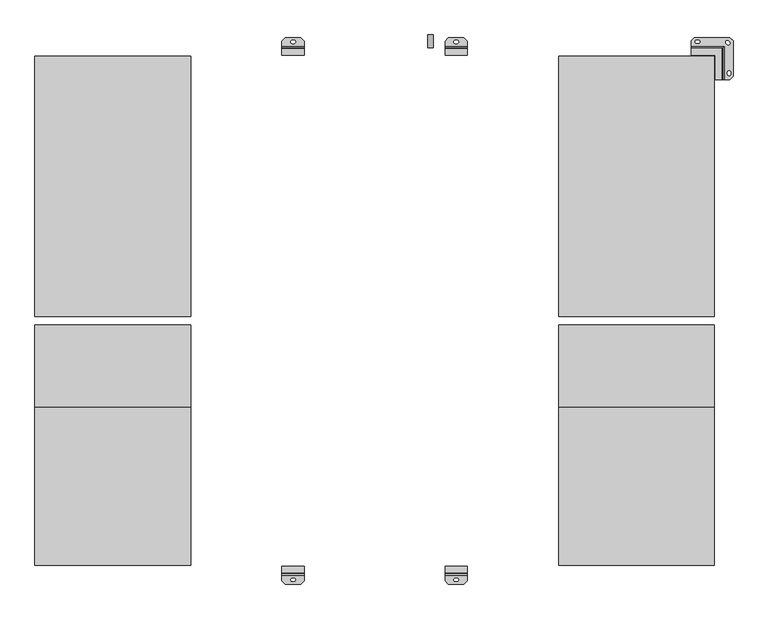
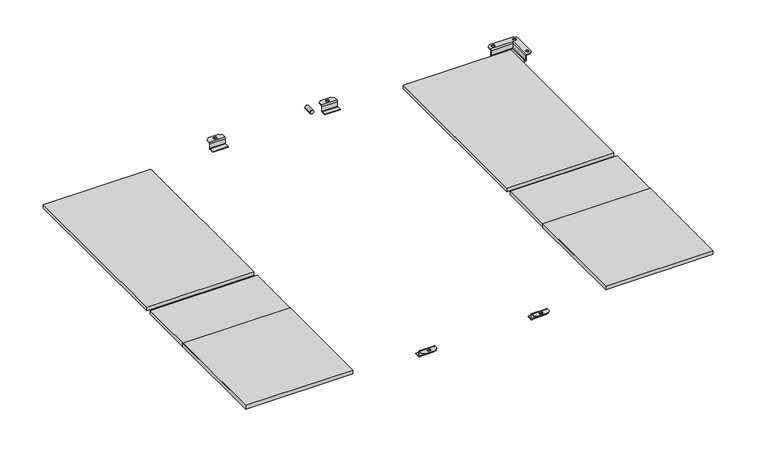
"""IFC4 building model written with IfcOpenShell, lengths in millimetres: proxy geometry, EMC_VEN_CLEVA 2.0_Right_V2 : CLEVA 4000 2.0 Right."""

from ifc_helpers import new_model, si_unit, point, frame, frame_2d, origin, origin_with_axes, place, context, project, spatial, polyline, circle_curve, ellipse_curve, trimmed, segment, composite_curve, outline, extrude, source, transform, mapped, element, save
from ifc_brep_helpers import plane_surface, cylinder_surface, revolved_surface, advanced_brep


def mechanical_equipment_c04ba774(model_context):
    return source(origin(), model_context, "Body", "SolidModel", [
        extrude(outline(polyline([(660.0, -914.0), (660.0, -347.0), (1219.0, -347.0), (1219.0, -914.0), (660.0, -914.0)])), origin_with_axes(), (0.0, 0.0, 1.0), 20.0),
        extrude(outline(polyline([(-660.0, -914.0), (-1219.0, -914.0), (-1219.0, -347.0), (-660.0, -347.0), (-660.0, -914.0)])), origin_with_axes(), (0.0, 0.0, 1.0), 20.0),
        extrude(outline(polyline([(660.0, 914.0), (1219.0, 914.0), (1219.0, -20.0), (660.0, -20.0), (660.0, 914.0)])), origin_with_axes(), (0.0, 0.0, 1.0), 20.0),
        extrude(outline(polyline([(-660.0, 914.0), (-660.0, -20.0), (-1219.0, -20.0), (-1219.0, 914.0), (-660.0, 914.0)])), origin_with_axes(), (0.0, 0.0, 1.0), 20.0),
        extrude(outline(polyline([(660.0, -914.0), (660.0, -50.0), (1219.0, -50.0), (1219.0, -914.0), (660.0, -914.0)])), origin_with_axes(), (0.0, 0.0, 1.0), 20.0),
        extrude(outline(polyline([(-660.0, -914.0), (-1219.0, -914.0), (-1219.0, -50.0), (-660.0, -50.0), (-660.0, -914.0)])), origin_with_axes(), (0.0, 0.0, 1.0), 20.0),
        extrude(outline(composite_curve([segment(trimmed(circle_curve(frame_2d((15.0, 200.0)), 10.0), [point((15.0, 210.0))], [point((15.0, 190.0))], False, "CARTESIAN"), True, "CONTINUOUS"), segment(trimmed(circle_curve(frame_2d((15.0, 200.0)), 10.0), [point((15.0, 190.0))], [point((15.0, 210.0))], False, "CARTESIAN"), True, "CONTINUOUS")], self_intersect=False)), frame((0.0, 945.0, 0.0), z_axis=(0.0, 1.0, 0.0), x_axis=(0.0, 0.0, 1.0)), (0.0, 0.0, 1.0), 46.0),
        advanced_brep(
        [(-332.4199372, 950.9879885, 32.4276212), (-332.4199372, 969.0000028, 32.4276212), (-332.4199372, 969.0000028, 29.4276272), (-332.4199372, 950.9939883, 29.4276272), (-332.4199372, 947.999994, 26.4336329), (-332.4199372, 947.999994, 2.850007), (-332.4199372, 941.9879811, -3.149981), (-332.4199372, 918.0023908, -3.149981), (-332.4199372, 918.0023908, -0.149987), (-332.4199372, 942.9960038, -0.149987), (-332.4199372, 945.0, 1.8540092), (-332.4199372, 945.0, 26.4156337), (-252.4199448, 950.9939883, 29.4276272), (-252.4199448, 969.0000028, 29.4276272), (-252.4199448, 969.0000028, 32.4276212), (-252.4199448, 950.9879885, 32.4276212), (-252.4199448, 945.0, 26.4156337), (-252.4199448, 945.0, 1.8540092), (-252.4199448, 942.9960038, -0.149987), (-252.4199448, 918.0023908, -0.149987), (-252.4199448, 918.0023908, -3.149981), (-252.4199448, 941.9879811, -3.149981), (-252.4199448, 947.9999806, 2.850007), (-252.4199448, 947.999994, 26.4336329), (-320.2699488, 981.1499912, 29.4276272), (-320.2699488, 981.1499912, 32.4276212), (-264.5699332, 981.1499912, 32.4276212), (-264.5699332, 981.1499912, 29.4276272), (-294.919936, 960.0000088, 32.4276212), (-294.9079365, 971.9999968, 32.4276212), (-289.9079465, 971.9999968, 32.4276212), (-289.919946, 960.0000088, 32.4276212), (-289.919946, 960.0000088, 29.4276272), (-289.9079465, 971.9999968, 29.4276272), (-294.9079365, 971.9999968, 29.4276272), (-294.919936, 960.0000088, 29.4276272)],
        [
            (0, 1),
            (1, 2),
            (2, 3),
            (3, 4, circle_curve(frame((-332.4199372, 950.999988, 26.4276332), z_axis=(1.0, 0.0, 0.0), x_axis=(0.0, -1.0, 0.0)), 3.0)),
            (4, 5),
            (5, 6, circle_curve(frame((-332.4199372, 941.9999806, 2.850007), z_axis=(-1.0, 0.0, 0.0), x_axis=(0.0, -1.0, 0.0)), 6.0)),
            (6, 7),
            (7, 8),
            (8, 9),
            (9, 10, circle_curve(frame((-332.4199372, 943.000004, 1.850009), z_axis=(1.0, 0.0, 0.0), x_axis=(0.0, -1.0, 0.0)), 2.0)),
            (10, 11),
            (11, 0, circle_curve(frame((-332.4199372, 950.999988, 26.4276332), z_axis=(-1.0, 0.0, 0.0), x_axis=(0.0, -1.0, 0.0)), 6.0)),
            (12, 13),
            (13, 14),
            (14, 15),
            (15, 16, circle_curve(frame((-252.4199448, 950.999988, 26.4276332), z_axis=(1.0, 0.0, 0.0), x_axis=(0.0, -1.0, 0.0)), 6.0)),
            (16, 17),
            (17, 18, circle_curve(frame((-252.4199448, 943.000004, 1.850009), z_axis=(-1.0, 0.0, 0.0), x_axis=(0.0, -1.0, 0.0)), 2.0)),
            (18, 19),
            (19, 20),
            (20, 21),
            (21, 22, circle_curve(frame((-252.4199448, 941.9999806, 2.850007), z_axis=(1.0, 0.0, 0.0), x_axis=(0.0, -1.0, 0.0)), 6.0)),
            (22, 23),
            (23, 12, circle_curve(frame((-252.4199448, 950.999988, 26.4276332), z_axis=(-1.0, 0.0, 0.0), x_axis=(0.0, -1.0, 0.0)), 3.0)),
            (24, 25),
            (25, 26),
            (26, 27),
            (27, 24),
            (14, 26),
            (25, 1),
            (0, 15),
            (28, 29, circle_curve(frame((-294.919936, 966.0000088, 32.4276212), z_axis=(0.0, 0.0, -1.0), x_axis=(1.0, 0.0, 0.0)), 6.0)),
            (29, 30),
            (30, 31, circle_curve(frame((-289.919946, 966.0000088, 32.4276212), z_axis=(0.0, 0.0, -1.0), x_axis=(1.0, 0.0, 0.0)), 6.0)),
            (31, 28),
            (11, 16),
            (10, 17),
            (9, 18),
            (8, 19),
            (7, 20),
            (6, 21),
            (5, 22),
            (4, 23),
            (3, 12),
            (2, 24),
            (27, 13),
            (32, 33, circle_curve(frame((-289.919946, 966.0000088, 29.4276272), z_axis=(0.0, 0.0, 1.0), x_axis=(1.0, 0.0, 0.0)), 6.0)),
            (33, 34),
            (34, 35, circle_curve(frame((-294.919936, 966.0000088, 29.4276272), z_axis=(0.0, 0.0, 1.0), x_axis=(1.0, 0.0, 0.0)), 6.0)),
            (35, 32),
            (35, 28),
            (31, 32),
            (34, 29),
            (33, 30),
        ],
        [
            plane_surface(frame((-332.4199372, 945.0, 0.0), z_axis=(-1.0, 0.0, 0.0), x_axis=(0.0, 0.0, 1.0))),
            plane_surface(frame((-252.4199448, 945.0, 0.0), z_axis=(1.0, 0.0, 0.0), x_axis=(0.0, 0.0, 1.0))),
            plane_surface(frame((-332.4199372, 981.1499912, 29.4276272), z_axis=(0.0, 1.0, 0.0), x_axis=(1.0, 0.0, 0.0))),
            plane_surface(frame((-332.4199372, 981.1499912, 32.4276212), z_axis=(0.0, 0.0, 1.0), x_axis=(1.0, 0.0, 0.0))),
            cylinder_surface(frame((-332.4199372, 950.999988, 26.4276332), z_axis=(-1.0, 0.0, 0.0), x_axis=(0.0, -1.0, 0.0)), 6.0),
            plane_surface(frame((-332.4199372, 945.0, 26.4156337), z_axis=(0.0, -1.0, 0.0), x_axis=(1.0, 0.0, 0.0))),
            revolved_surface(polyline([(-252.4199448, 941.000004, 1.850009), (-332.4199372, 941.000004, 1.850009)]), (-332.4199372, 943.000004, 1.850009), (1.0, 0.0, 0.0)),
            plane_surface(frame((-332.4199372, 942.9960038, -0.149987), z_axis=(0.0, 0.0, 1.0), x_axis=(1.0, 0.0, 0.0))),
            plane_surface(frame((-332.4199372, 918.0023908, -0.149987), z_axis=(0.0, -1.0, 0.0), x_axis=(1.0, 0.0, 0.0))),
            plane_surface(frame((-332.4199372, 918.0023908, -3.149981), z_axis=(0.0, 0.0, -1.0), x_axis=(1.0, 0.0, 0.0))),
            cylinder_surface(frame((-332.4199372, 941.9999806, 2.850007), z_axis=(-1.0, 0.0, 0.0), x_axis=(0.0, -1.0, 0.0)), 6.0),
            plane_surface(frame((-332.4199372, 947.999994, 2.850007), z_axis=(0.0, 1.0, 0.0), x_axis=(1.0, 0.0, 0.0))),
            revolved_surface(polyline([(-252.4199448, 947.999988, 26.4276332), (-332.4199372, 947.999988, 26.4276332)]), (-332.4199372, 950.999988, 26.4276332), (1.0, 0.0, 0.0)),
            plane_surface(frame((-332.4199372, 950.9939883, 29.4276272), z_axis=(0.0, 0.0, -1.0), x_axis=(1.0, 0.0, 0.0))),
            plane_surface(frame((-289.919946, 959.9999954, 250.0), z_axis=(0.0, 1.0, 0.0), x_axis=(0.0, 0.0, -1.0))),
            revolved_surface(polyline([(-288.919936, 966.0000088, 32.4276212), (-288.919936, 966.0000088, 29.4276272)]), (-294.919936, 966.0000088, 0.0), (0.0, 0.0, 1.0)),
            plane_surface(frame((-294.9079365, 971.9999968, 250.0), z_axis=(0.0, -1.0, 0.0), x_axis=(0.0, 0.0, -1.0))),
            revolved_surface(polyline([(-283.919946, 966.0000088, 32.4276212), (-283.919946, 966.0000088, 29.4276272)]), (-289.919946, 966.0000088, 0.0), (0.0, 0.0, 1.0)),
            plane_surface(frame((-320.2699488, 981.1499912, 250.0), z_axis=(-0.7071067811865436, 0.7071067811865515, 0.0), x_axis=(0.0, 0.0, -1.0))),
            plane_surface(frame((-246.4580002, 963.0380582, 250.0), z_axis=(0.7071067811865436, 0.7071067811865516, 0.0), x_axis=(0.0, 0.0, -1.0))),
        ],
        [
            (0, [[1, 2, 3, 4, 5, 6, 7, 8, 9, 10, 11, 12]]),
            (1, [[13, 14, 15, 16, 17, 18, 19, 20, 21, 22, 23, 24]]),
            (2, [[25, 26, 27, 28]]),
            (3, [[-15, 29, -26, 30, -1, 31], [32, 33, 34, 35]]),
            (4, [[36, -16, -31, -12]]),
            (5, [[37, -17, -36, -11]]),
            (6, [[38, -18, -37, -10]]),
            (7, [[39, -19, -38, -9]]),
            (8, [[40, -20, -39, -8]]),
            (9, [[41, -21, -40, -7]]),
            (10, [[42, -22, -41, -6]]),
            (11, [[43, -23, -42, -5]]),
            (12, [[44, -24, -43, -4]]),
            (13, [[-3, 45, -28, 46, -13, -44], [47, 48, 49, 50]]),
            (14, [[-50, 51, -35, 52]]),
            (15, [[-49, 53, -32, -51]]),
            (16, [[-48, 54, -33, -53]]),
            (17, [[-34, -54, -47, -52]]),
            (18, [[-30, -25, -45, -2]]),
            (19, [[-46, -27, -29, -14]]),
        ],
    ),
        advanced_brep(
        [(252.5800628, 950.9879885, 32.4276212), (252.5800628, 969.0000028, 32.4276212), (252.5800628, 969.0000028, 29.4276272), (252.5800628, 950.9939883, 29.4276272), (252.5800628, 947.999994, 26.4336329), (252.5800628, 947.999994, 2.850007), (252.5800628, 941.9879811, -3.149981), (252.5800628, 918.0023908, -3.149981), (252.5800628, 918.0023908, -0.149987), (252.5800628, 942.9960038, -0.149987), (252.5800628, 945.0, 1.8540092), (252.5800628, 945.0, 26.4156337), (332.5800552, 950.9939883, 29.4276272), (332.5800552, 969.0000028, 29.4276272), (332.5800552, 969.0000028, 32.4276212), (332.5800552, 950.9879885, 32.4276212), (332.5800552, 945.0, 26.4156337), (332.5800552, 945.0, 1.8540092), (332.5800552, 942.9960038, -0.149987), (332.5800552, 918.0023908, -0.149987), (332.5800552, 918.0023908, -3.149981), (332.5800552, 941.9879811, -3.149981), (332.5800552, 947.9999806, 2.850007), (332.5800552, 947.999994, 26.4336329), (264.7300512, 981.1499912, 29.4276272), (264.7300512, 981.1499912, 32.4276212), (320.4300668, 981.1499912, 32.4276212), (320.4300668, 981.1499912, 29.4276272), (290.080064, 960.0000088, 32.4276212), (290.0920635, 971.9999968, 32.4276212), (295.0920535, 971.9999968, 32.4276212), (295.080054, 960.0000088, 32.4276212), (295.080054, 960.0000088, 29.4276272), (295.0920535, 971.9999968, 29.4276272), (290.0920635, 971.9999968, 29.4276272), (290.080064, 960.0000088, 29.4276272)],
        [
            (0, 1),
            (1, 2),
            (2, 3),
            (3, 4, circle_curve(frame((252.5800628, 950.999988, 26.4276332), z_axis=(1.0, 0.0, 0.0), x_axis=(0.0, -1.0, 0.0)), 3.0)),
            (4, 5),
            (5, 6, circle_curve(frame((252.5800628, 941.9999806, 2.850007), z_axis=(-1.0, 0.0, 0.0), x_axis=(0.0, -1.0, 0.0)), 6.0)),
            (6, 7),
            (7, 8),
            (8, 9),
            (9, 10, circle_curve(frame((252.5800628, 943.000004, 1.850009), z_axis=(1.0, 0.0, 0.0), x_axis=(0.0, -1.0, 0.0)), 2.0)),
            (10, 11),
            (11, 0, circle_curve(frame((252.5800628, 950.999988, 26.4276332), z_axis=(-1.0, 0.0, 0.0), x_axis=(0.0, -1.0, 0.0)), 6.0)),
            (12, 13),
            (13, 14),
            (14, 15),
            (15, 16, circle_curve(frame((332.5800552, 950.999988, 26.4276332), z_axis=(1.0, 0.0, 0.0), x_axis=(0.0, -1.0, 0.0)), 6.0)),
            (16, 17),
            (17, 18, circle_curve(frame((332.5800552, 943.000004, 1.850009), z_axis=(-1.0, 0.0, 0.0), x_axis=(0.0, -1.0, 0.0)), 2.0)),
            (18, 19),
            (19, 20),
            (20, 21),
            (21, 22, circle_curve(frame((332.5800552, 941.9999806, 2.850007), z_axis=(1.0, 0.0, 0.0), x_axis=(0.0, -1.0, 0.0)), 6.0)),
            (22, 23),
            (23, 12, circle_curve(frame((332.5800552, 950.999988, 26.4276332), z_axis=(-1.0, 0.0, 0.0), x_axis=(0.0, -1.0, 0.0)), 3.0)),
            (24, 25),
            (25, 26),
            (26, 27),
            (27, 24),
            (14, 26),
            (25, 1),
            (0, 15),
            (28, 29, circle_curve(frame((290.080064, 966.0000088, 32.4276212), z_axis=(0.0, 0.0, -1.0), x_axis=(1.0, 0.0, 0.0)), 6.0)),
            (29, 30),
            (30, 31, circle_curve(frame((295.080054, 966.0000088, 32.4276212), z_axis=(0.0, 0.0, -1.0), x_axis=(1.0, 0.0, 0.0)), 6.0)),
            (31, 28),
            (11, 16),
            (10, 17),
            (9, 18),
            (8, 19),
            (7, 20),
            (6, 21),
            (5, 22),
            (4, 23),
            (3, 12),
            (2, 24),
            (27, 13),
            (32, 33, circle_curve(frame((295.080054, 966.0000088, 29.4276272), z_axis=(0.0, 0.0, 1.0), x_axis=(1.0, 0.0, 0.0)), 6.0)),
            (33, 34),
            (34, 35, circle_curve(frame((290.080064, 966.0000088, 29.4276272), z_axis=(0.0, 0.0, 1.0), x_axis=(1.0, 0.0, 0.0)), 6.0)),
            (35, 32),
            (35, 28),
            (31, 32),
            (34, 29),
            (33, 30),
        ],
        [
            plane_surface(frame((252.5800628, 945.0, 0.0), z_axis=(-1.0, 0.0, 0.0), x_axis=(0.0, 0.0, 1.0))),
            plane_surface(frame((332.5800552, 945.0, 0.0), z_axis=(1.0, 0.0, 0.0), x_axis=(0.0, 0.0, 1.0))),
            plane_surface(frame((252.5800628, 981.1499912, 29.4276272), z_axis=(0.0, 1.0, 0.0), x_axis=(1.0, 0.0, 0.0))),
            plane_surface(frame((252.5800628, 981.1499912, 32.4276212), z_axis=(0.0, 0.0, 1.0), x_axis=(1.0, 0.0, 0.0))),
            cylinder_surface(frame((252.5800628, 950.999988, 26.4276332), z_axis=(-1.0, 0.0, 0.0), x_axis=(0.0, -1.0, 0.0)), 6.0),
            plane_surface(frame((252.5800628, 945.0, 26.4156337), z_axis=(0.0, -1.0, 0.0), x_axis=(1.0, 0.0, 0.0))),
            revolved_surface(polyline([(332.5800552, 941.000004, 1.850009), (252.5800628, 941.000004, 1.850009)]), (252.5800628, 943.000004, 1.850009), (1.0, 0.0, 0.0)),
            plane_surface(frame((252.5800628, 942.9960038, -0.149987), z_axis=(0.0, 0.0, 1.0), x_axis=(1.0, 0.0, 0.0))),
            plane_surface(frame((252.5800628, 918.0023908, -0.149987), z_axis=(0.0, -1.0, 0.0), x_axis=(1.0, 0.0, 0.0))),
            plane_surface(frame((252.5800628, 918.0023908, -3.149981), z_axis=(0.0, 0.0, -1.0), x_axis=(1.0, 0.0, 0.0))),
            cylinder_surface(frame((252.5800628, 941.9999806, 2.850007), z_axis=(-1.0, 0.0, 0.0), x_axis=(0.0, -1.0, 0.0)), 6.0),
            plane_surface(frame((252.5800628, 947.999994, 2.850007), z_axis=(0.0, 1.0, 0.0), x_axis=(1.0, 0.0, 0.0))),
            revolved_surface(polyline([(332.5800552, 947.999988, 26.4276332), (252.5800628, 947.999988, 26.4276332)]), (252.5800628, 950.999988, 26.4276332), (1.0, 0.0, 0.0)),
            plane_surface(frame((252.5800628, 950.9939883, 29.4276272), z_axis=(0.0, 0.0, -1.0), x_axis=(1.0, 0.0, 0.0))),
            plane_surface(frame((295.080054, 959.9999954, 250.0), z_axis=(0.0, 1.0, 0.0), x_axis=(0.0, 0.0, -1.0))),
            revolved_surface(polyline([(296.080064, 966.0000088, 32.4276212), (296.080064, 966.0000088, 29.4276272)]), (290.080064, 966.0000088, 0.0), (0.0, 0.0, 1.0)),
            plane_surface(frame((290.0920635, 971.9999968, 250.0), z_axis=(0.0, -1.0, 0.0), x_axis=(0.0, 0.0, -1.0))),
            revolved_surface(polyline([(301.080054, 966.0000088, 32.4276212), (301.080054, 966.0000088, 29.4276272)]), (295.080054, 966.0000088, 0.0), (0.0, 0.0, 1.0)),
            plane_surface(frame((264.7300512, 981.1499912, 250.0), z_axis=(-0.7071067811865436, 0.7071067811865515, 0.0), x_axis=(0.0, 0.0, -1.0))),
            plane_surface(frame((338.5419998, 963.0380582, 250.0), z_axis=(0.7071067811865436, 0.7071067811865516, 0.0), x_axis=(0.0, 0.0, -1.0))),
        ],
        [
            (0, [[1, 2, 3, 4, 5, 6, 7, 8, 9, 10, 11, 12]]),
            (1, [[13, 14, 15, 16, 17, 18, 19, 20, 21, 22, 23, 24]]),
            (2, [[25, 26, 27, 28]]),
            (3, [[-15, 29, -26, 30, -1, 31], [32, 33, 34, 35]]),
            (4, [[36, -16, -31, -12]]),
            (5, [[37, -17, -36, -11]]),
            (6, [[38, -18, -37, -10]]),
            (7, [[39, -19, -38, -9]]),
            (8, [[40, -20, -39, -8]]),
            (9, [[41, -21, -40, -7]]),
            (10, [[42, -22, -41, -6]]),
            (11, [[43, -23, -42, -5]]),
            (12, [[44, -24, -43, -4]]),
            (13, [[-3, 45, -28, 46, -13, -44], [47, 48, 49, 50]]),
            (14, [[-50, 51, -35, 52]]),
            (15, [[-49, 53, -32, -51]]),
            (16, [[-48, 54, -33, -53]]),
            (17, [[-34, -54, -47, -52]]),
            (18, [[-30, -25, -45, -2]]),
            (19, [[-46, -27, -29, -14]]),
        ],
    ),
        advanced_brep(
        [(-332.4199372, -950.9879885, 32.4276212), (-332.4199372, -945.0, 26.4156337), (-332.4199372, -945.0, 1.8540092), (-332.4199372, -942.9960038, -0.149987), (-332.4199372, -918.0023908, -0.149987), (-332.4199372, -918.0023908, -3.149981), (-332.4199372, -941.9879811, -3.149981), (-332.4199372, -947.9999806, 2.850007), (-332.4199372, -947.999994, 26.4336329), (-332.4199372, -950.9939883, 29.4276272), (-332.4199372, -969.0000028, 29.4276272), (-332.4199372, -969.0000028, 32.4276212), (-252.4199448, -950.9939883, 29.4276272), (-252.4199448, -947.999994, 26.4336329), (-252.4199448, -947.999994, 2.850007), (-252.4199448, -941.9879811, -3.149981), (-252.4199448, -918.0023908, -3.149981), (-252.4199448, -918.0023908, -0.149987), (-252.4199448, -942.9960038, -0.149987), (-252.4199448, -945.0, 1.8540092), (-252.4199448, -945.0, 26.4156337), (-252.4199448, -950.9879885, 32.4276212), (-252.4199448, -969.0000028, 32.4276212), (-252.4199448, -969.0000028, 29.4276272), (-320.2699488, -981.1499912, 29.4276272), (-264.5699332, -981.1499912, 29.4276272), (-264.5699332, -981.1499912, 32.4276212), (-320.2699488, -981.1499912, 32.4276212), (-294.919936, -959.9999954, 32.4276212), (-289.919946, -959.9999954, 32.4276212), (-289.9079465, -971.9999968, 32.4276212), (-294.9079365, -971.9999968, 32.4276212), (-289.919946, -959.9999954, 29.4276272), (-294.919936, -959.9999954, 29.4276272), (-294.9079365, -971.9999968, 29.4276272), (-289.9079465, -971.9999968, 29.4276272)],
        [
            (0, 1, circle_curve(frame((-332.4199372, -950.999988, 26.4276332), z_axis=(-1.0, 0.0, 0.0), x_axis=(0.0, 1.0, 0.0)), 6.0)),
            (1, 2),
            (2, 3, circle_curve(frame((-332.4199372, -943.000004, 1.850009), z_axis=(1.0, 0.0, 0.0), x_axis=(0.0, 1.0, 0.0)), 2.0)),
            (3, 4),
            (4, 5),
            (5, 6),
            (6, 7, circle_curve(frame((-332.4199372, -941.9999806, 2.850007), z_axis=(-1.0, 0.0, 0.0), x_axis=(0.0, 1.0, 0.0)), 6.0)),
            (7, 8),
            (8, 9, circle_curve(frame((-332.4199372, -950.999988, 26.4276332), z_axis=(1.0, 0.0, 0.0), x_axis=(0.0, 1.0, 0.0)), 3.0)),
            (9, 10),
            (10, 11),
            (11, 0),
            (12, 13, circle_curve(frame((-252.4199448, -950.999988, 26.4276332), z_axis=(-1.0, 0.0, 0.0), x_axis=(0.0, 1.0, 0.0)), 3.0)),
            (13, 14),
            (14, 15, circle_curve(frame((-252.4199448, -941.9999806, 2.850007), z_axis=(1.0, 0.0, 0.0), x_axis=(0.0, 1.0, 0.0)), 6.0)),
            (15, 16),
            (16, 17),
            (17, 18),
            (18, 19, circle_curve(frame((-252.4199448, -943.000004, 1.850009), z_axis=(-1.0, 0.0, 0.0), x_axis=(0.0, 1.0, 0.0)), 2.0)),
            (19, 20),
            (20, 21, circle_curve(frame((-252.4199448, -950.999988, 26.4276332), z_axis=(1.0, 0.0, 0.0), x_axis=(0.0, 1.0, 0.0)), 6.0)),
            (21, 22),
            (22, 23),
            (23, 12),
            (24, 25),
            (25, 26),
            (26, 27),
            (27, 24),
            (21, 0),
            (11, 27),
            (26, 22),
            (28, 29),
            (29, 30, circle_curve(frame((-289.919946, -966.0000088, 32.4276212), z_axis=(0.0, 0.0, -1.0), x_axis=(1.0, 0.0, 0.0)), 6.0)),
            (30, 31),
            (31, 28, circle_curve(frame((-294.919936, -966.0000088, 32.4276212), z_axis=(0.0, 0.0, -1.0), x_axis=(1.0, 0.0, 0.0)), 6.0)),
            (20, 1),
            (19, 2),
            (18, 3),
            (17, 4),
            (16, 5),
            (15, 6),
            (14, 7),
            (13, 8),
            (12, 9),
            (23, 25),
            (24, 10),
            (32, 33),
            (33, 34, circle_curve(frame((-294.919936, -966.0000088, 29.4276272), z_axis=(0.0, 0.0, 1.0), x_axis=(1.0, 0.0, 0.0)), 6.0)),
            (34, 35),
            (35, 32, circle_curve(frame((-289.919946, -966.0000088, 29.4276272), z_axis=(0.0, 0.0, 1.0), x_axis=(1.0, 0.0, 0.0)), 6.0)),
            (32, 29),
            (28, 33),
            (31, 34),
            (30, 35),
        ],
        [
            plane_surface(frame((-332.4199372, -945.0, 0.0), z_axis=(-1.0, 0.0, 0.0), x_axis=(0.0, 0.0, 1.0))),
            plane_surface(frame((-252.4199448, -945.0, 0.0), z_axis=(1.0, 0.0, 0.0), x_axis=(0.0, 0.0, 1.0))),
            plane_surface(frame((-332.4199372, -981.1499912, 29.4276272), z_axis=(0.0, -1.0, 0.0), x_axis=(1.0, 0.0, 0.0))),
            plane_surface(frame((-332.4199372, -981.1499912, 32.4276212), z_axis=(0.0, 0.0, 1.0), x_axis=(1.0, 0.0, 0.0))),
            cylinder_surface(frame((-332.4199372, -950.999988, 26.4276332), z_axis=(-1.0, 0.0, 0.0), x_axis=(0.0, 1.0, 0.0)), 6.0),
            plane_surface(frame((-332.4199372, -945.0, 26.4156337), z_axis=(0.0, 1.0, 0.0), x_axis=(1.0, 0.0, 0.0))),
            revolved_surface(polyline([(-252.4199448, -941.000004, 1.850009), (-332.4199372, -941.000004, 1.850009)]), (-332.4199372, -943.000004, 1.850009), (1.0, 0.0, 0.0)),
            plane_surface(frame((-332.4199372, -942.9960038, -0.149987), z_axis=(0.0, 0.0, 1.0), x_axis=(1.0, 0.0, 0.0))),
            plane_surface(frame((-332.4199372, -918.0023908, -0.149987), z_axis=(0.0, 1.0, 0.0), x_axis=(1.0, 0.0, 0.0))),
            plane_surface(frame((-332.4199372, -918.0023908, -3.149981), z_axis=(0.0, 0.0, -1.0), x_axis=(1.0, 0.0, 0.0))),
            cylinder_surface(frame((-332.4199372, -941.9999806, 2.850007), z_axis=(-1.0, 0.0, 0.0), x_axis=(0.0, 1.0, 0.0)), 6.0),
            plane_surface(frame((-332.4199372, -947.999994, 2.850007), z_axis=(0.0, -1.0, 0.0), x_axis=(1.0, 0.0, 0.0))),
            revolved_surface(polyline([(-252.4199448, -947.999988, 26.4276332), (-332.4199372, -947.999988, 26.4276332)]), (-332.4199372, -950.999988, 26.4276332), (1.0, 0.0, 0.0)),
            plane_surface(frame((-332.4199372, -950.9939883, 29.4276272), z_axis=(0.0, 0.0, -1.0), x_axis=(1.0, 0.0, 0.0))),
            plane_surface(frame((-289.919946, -959.9999954, 250.0), z_axis=(0.0, -1.0, 0.0), x_axis=(0.0, 0.0, -1.0))),
            revolved_surface(polyline([(-288.919936, -966.0000088, 32.4276212), (-288.919936, -966.0000088, 29.4276272)]), (-294.919936, -966.0000088, 0.0), (0.0, 0.0, 1.0)),
            plane_surface(frame((-294.9079365, -971.9999968, 250.0), z_axis=(0.0, 1.0, 0.0), x_axis=(0.0, 0.0, -1.0))),
            revolved_surface(polyline([(-283.919946, -966.0000088, 32.4276212), (-283.919946, -966.0000088, 29.4276272)]), (-289.919946, -966.0000088, 0.0), (0.0, 0.0, 1.0)),
            plane_surface(frame((-320.2699488, -981.1499912, 250.0), z_axis=(-0.7071067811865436, -0.7071067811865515, 0.0), x_axis=(0.0, 0.0, -1.0))),
            plane_surface(frame((-246.4580002, -963.0380582, 250.0), z_axis=(0.7071067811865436, -0.7071067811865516, 0.0), x_axis=(0.0, 0.0, -1.0))),
        ],
        [
            (0, [[1, 2, 3, 4, 5, 6, 7, 8, 9, 10, 11, 12]]),
            (1, [[13, 14, 15, 16, 17, 18, 19, 20, 21, 22, 23, 24]]),
            (2, [[25, 26, 27, 28]]),
            (3, [[29, -12, 30, -27, 31, -22], [32, 33, 34, 35]]),
            (4, [[-1, -29, -21, 36]]),
            (5, [[-2, -36, -20, 37]]),
            (6, [[-3, -37, -19, 38]]),
            (7, [[-4, -38, -18, 39]]),
            (8, [[-5, -39, -17, 40]]),
            (9, [[-6, -40, -16, 41]]),
            (10, [[-7, -41, -15, 42]]),
            (11, [[-8, -42, -14, 43]]),
            (12, [[-9, -43, -13, 44]]),
            (13, [[-44, -24, 45, -25, 46, -10], [47, 48, 49, 50]]),
            (14, [[51, -32, 52, -47]]),
            (15, [[-52, -35, 53, -48]]),
            (16, [[-53, -34, 54, -49]]),
            (17, [[-51, -50, -54, -33]]),
            (18, [[-11, -46, -28, -30]]),
            (19, [[-23, -31, -26, -45]]),
        ],
    ),
        advanced_brep(
        [(252.5800628, -950.9879885, 32.4276212), (252.5800628, -945.0, 26.4156337), (252.5800628, -945.0, 1.8540092), (252.5800628, -942.9960038, -0.149987), (252.5800628, -918.0023908, -0.149987), (252.5800628, -918.0023908, -3.149981), (252.5800628, -941.9879811, -3.149981), (252.5800628, -947.9999806, 2.850007), (252.5800628, -947.999994, 26.4336329), (252.5800628, -950.9939883, 29.4276272), (252.5800628, -969.0000028, 29.4276272), (252.5800628, -969.0000028, 32.4276212), (332.5800552, -950.9939883, 29.4276272), (332.5800552, -947.999994, 26.4336329), (332.5800552, -947.999994, 2.850007), (332.5800552, -941.9879811, -3.149981), (332.5800552, -918.0023908, -3.149981), (332.5800552, -918.0023908, -0.149987), (332.5800552, -942.9960038, -0.149987), (332.5800552, -945.0, 1.8540092), (332.5800552, -945.0, 26.4156337), (332.5800552, -950.9879885, 32.4276212), (332.5800552, -969.0000028, 32.4276212), (332.5800552, -969.0000028, 29.4276272), (264.7300512, -981.1499912, 29.4276272), (320.4300668, -981.1499912, 29.4276272), (320.4300668, -981.1499912, 32.4276212), (264.7300512, -981.1499912, 32.4276212), (290.080064, -959.9999954, 32.4276212), (295.080054, -959.9999954, 32.4276212), (295.0920535, -971.9999968, 32.4276212), (290.0920635, -971.9999968, 32.4276212), (295.080054, -959.9999954, 29.4276272), (290.080064, -959.9999954, 29.4276272), (290.0920635, -971.9999968, 29.4276272), (295.0920535, -971.9999968, 29.4276272)],
        [
            (0, 1, circle_curve(frame((252.5800628, -950.999988, 26.4276332), z_axis=(-1.0, 0.0, 0.0), x_axis=(0.0, 1.0, 0.0)), 6.0)),
            (1, 2),
            (2, 3, circle_curve(frame((252.5800628, -943.000004, 1.850009), z_axis=(1.0, 0.0, 0.0), x_axis=(0.0, 1.0, 0.0)), 2.0)),
            (3, 4),
            (4, 5),
            (5, 6),
            (6, 7, circle_curve(frame((252.5800628, -941.9999806, 2.850007), z_axis=(-1.0, 0.0, 0.0), x_axis=(0.0, 1.0, 0.0)), 6.0)),
            (7, 8),
            (8, 9, circle_curve(frame((252.5800628, -950.999988, 26.4276332), z_axis=(1.0, 0.0, 0.0), x_axis=(0.0, 1.0, 0.0)), 3.0)),
            (9, 10),
            (10, 11),
            (11, 0),
            (12, 13, circle_curve(frame((332.5800552, -950.999988, 26.4276332), z_axis=(-1.0, 0.0, 0.0), x_axis=(0.0, 1.0, 0.0)), 3.0)),
            (13, 14),
            (14, 15, circle_curve(frame((332.5800552, -941.9999806, 2.850007), z_axis=(1.0, 0.0, 0.0), x_axis=(0.0, 1.0, 0.0)), 6.0)),
            (15, 16),
            (16, 17),
            (17, 18),
            (18, 19, circle_curve(frame((332.5800552, -943.000004, 1.850009), z_axis=(-1.0, 0.0, 0.0), x_axis=(0.0, 1.0, 0.0)), 2.0)),
            (19, 20),
            (20, 21, circle_curve(frame((332.5800552, -950.999988, 26.4276332), z_axis=(1.0, 0.0, 0.0), x_axis=(0.0, 1.0, 0.0)), 6.0)),
            (21, 22),
            (22, 23),
            (23, 12),
            (24, 25),
            (25, 26),
            (26, 27),
            (27, 24),
            (21, 0),
            (11, 27),
            (26, 22),
            (28, 29),
            (29, 30, circle_curve(frame((295.080054, -966.0000088, 32.4276212), z_axis=(0.0, 0.0, -1.0), x_axis=(1.0, 0.0, 0.0)), 6.0)),
            (30, 31),
            (31, 28, circle_curve(frame((290.080064, -966.0000088, 32.4276212), z_axis=(0.0, 0.0, -1.0), x_axis=(1.0, 0.0, 0.0)), 6.0)),
            (20, 1),
            (19, 2),
            (18, 3),
            (17, 4),
            (16, 5),
            (15, 6),
            (14, 7),
            (13, 8),
            (12, 9),
            (23, 25),
            (24, 10),
            (32, 33),
            (33, 34, circle_curve(frame((290.080064, -966.0000088, 29.4276272), z_axis=(0.0, 0.0, 1.0), x_axis=(1.0, 0.0, 0.0)), 6.0)),
            (34, 35),
            (35, 32, circle_curve(frame((295.080054, -966.0000088, 29.4276272), z_axis=(0.0, 0.0, 1.0), x_axis=(1.0, 0.0, 0.0)), 6.0)),
            (32, 29),
            (28, 33),
            (31, 34),
            (30, 35),
        ],
        [
            plane_surface(frame((252.5800628, -945.0, 0.0), z_axis=(-1.0, 0.0, 0.0), x_axis=(0.0, 0.0, 1.0))),
            plane_surface(frame((332.5800552, -945.0, 0.0), z_axis=(1.0, 0.0, 0.0), x_axis=(0.0, 0.0, 1.0))),
            plane_surface(frame((252.5800628, -981.1499912, 29.4276272), z_axis=(0.0, -1.0, 0.0), x_axis=(1.0, 0.0, 0.0))),
            plane_surface(frame((252.5800628, -981.1499912, 32.4276212), z_axis=(0.0, 0.0, 1.0), x_axis=(1.0, 0.0, 0.0))),
            cylinder_surface(frame((252.5800628, -950.999988, 26.4276332), z_axis=(-1.0, 0.0, 0.0), x_axis=(0.0, 1.0, 0.0)), 6.0),
            plane_surface(frame((252.5800628, -945.0, 26.4156337), z_axis=(0.0, 1.0, 0.0), x_axis=(1.0, 0.0, 0.0))),
            revolved_surface(polyline([(332.5800552, -941.000004, 1.850009), (252.5800628, -941.000004, 1.850009)]), (252.5800628, -943.000004, 1.850009), (1.0, 0.0, 0.0)),
            plane_surface(frame((252.5800628, -942.9960038, -0.149987), z_axis=(0.0, 0.0, 1.0), x_axis=(1.0, 0.0, 0.0))),
            plane_surface(frame((252.5800628, -918.0023908, -0.149987), z_axis=(0.0, 1.0, 0.0), x_axis=(1.0, 0.0, 0.0))),
            plane_surface(frame((252.5800628, -918.0023908, -3.149981), z_axis=(0.0, 0.0, -1.0), x_axis=(1.0, 0.0, 0.0))),
            cylinder_surface(frame((252.5800628, -941.9999806, 2.850007), z_axis=(-1.0, 0.0, 0.0), x_axis=(0.0, 1.0, 0.0)), 6.0),
            plane_surface(frame((252.5800628, -947.999994, 2.850007), z_axis=(0.0, -1.0, 0.0), x_axis=(1.0, 0.0, 0.0))),
            revolved_surface(polyline([(332.5800552, -947.999988, 26.4276332), (252.5800628, -947.999988, 26.4276332)]), (252.5800628, -950.999988, 26.4276332), (1.0, 0.0, 0.0)),
            plane_surface(frame((252.5800628, -950.9939883, 29.4276272), z_axis=(0.0, 0.0, -1.0), x_axis=(1.0, 0.0, 0.0))),
            plane_surface(frame((295.080054, -959.9999954, 250.0), z_axis=(0.0, -1.0, 0.0), x_axis=(0.0, 0.0, -1.0))),
            revolved_surface(polyline([(296.080064, -966.0000088, 32.4276212), (296.080064, -966.0000088, 29.4276272)]), (290.080064, -966.0000088, 0.0), (0.0, 0.0, 1.0)),
            plane_surface(frame((290.0920635, -971.9999968, 250.0), z_axis=(0.0, 1.0, 0.0), x_axis=(0.0, 0.0, -1.0))),
            revolved_surface(polyline([(301.080054, -966.0000088, 32.4276212), (301.080054, -966.0000088, 29.4276272)]), (295.080054, -966.0000088, 0.0), (0.0, 0.0, 1.0)),
            plane_surface(frame((264.7300512, -981.1499912, 250.0), z_axis=(-0.7071067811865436, -0.7071067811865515, 0.0), x_axis=(0.0, 0.0, -1.0))),
            plane_surface(frame((338.5419998, -963.0380582, 250.0), z_axis=(0.7071067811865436, -0.7071067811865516, 0.0), x_axis=(0.0, 0.0, -1.0))),
        ],
        [
            (0, [[1, 2, 3, 4, 5, 6, 7, 8, 9, 10, 11, 12]]),
            (1, [[13, 14, 15, 16, 17, 18, 19, 20, 21, 22, 23, 24]]),
            (2, [[25, 26, 27, 28]]),
            (3, [[29, -12, 30, -27, 31, -22], [32, 33, 34, 35]]),
            (4, [[-1, -29, -21, 36]]),
            (5, [[-2, -36, -20, 37]]),
            (6, [[-3, -37, -19, 38]]),
            (7, [[-4, -38, -18, 39]]),
            (8, [[-5, -39, -17, 40]]),
            (9, [[-6, -40, -16, 41]]),
            (10, [[-7, -41, -15, 42]]),
            (11, [[-8, -42, -14, 43]]),
            (12, [[-9, -43, -13, 44]]),
            (13, [[-44, -24, 45, -25, 46, -10], [47, 48, 49, 50]]),
            (14, [[51, -32, 52, -47]]),
            (15, [[-52, -35, 53, -48]]),
            (16, [[-53, -34, 54, -49]]),
            (17, [[-51, -50, -54, -33]]),
            (18, [[-11, -46, -28, -30]]),
            (19, [[-23, -31, -26, -45]]),
        ],
    ),
        advanced_brep(
        [(1255.9879885, 830.1499884, 32.4276212), (1250.0, 830.1499884, 26.4156337), (1250.0, 830.1499884, 1.8540092), (1247.9960038, 830.1499884, -0.149987), (1223.0023908, 830.1499884, -0.149987), (1223.0023908, 830.1499884, -3.149981), (1246.9879811, 830.1499884, -3.149981), (1252.9999806, 830.1499884, 2.850007), (1252.999994, 830.1499884, 26.4336329), (1255.9939883, 830.1499884, 29.4276272), (1274.1500152, 830.1499884, 29.4276272), (1274.1500152, 830.1499884, 32.4276212), (1286.1499912, 842.1499898, 29.4276272), (1286.1499912, 969.1499898, 29.4276272), (1286.1499912, 969.1499898, 32.4276212), (1286.1499912, 842.1499898, 32.4276212), (1135.1500138, 950.9879885, 32.4276212), (1255.9879885, 950.9879885, 32.4276212), (1274.1500152, 981.1499912, 32.4276212), (1147.1500152, 981.1499912, 32.4276212), (1135.1500138, 969.1499898, 32.4276212), (1160.6500136, 972.6499948, 32.4276212), (1160.6380141, 960.6500068, 32.4276212), (1155.6619977, 960.6500068, 32.4276212), (1155.6499982, 972.6499948, 32.4276212), (1269.8972231, 968.4322052, 32.4276212), (1273.4413867, 964.888067, 32.4276212), (1264.9515297, 956.4073661, 32.4276212), (1261.4119618, 959.9469136, 32.4276212), (1265.6500068, 855.6379887, 32.4276212), (1277.6499948, 855.6499882, 32.4276212), (1277.6500082, 850.6499982, 32.4276212), (1265.6500068, 850.6379987, 32.4276212), (1250.0, 945.0, 26.4156337), (1250.0, 945.0, 1.8540092), (1247.9960038, 942.9960038, -0.149987), (1135.1500138, 942.9960038, -0.149987), (1135.1500138, 918.0023908, -0.149987), (1223.0023908, 918.0023908, -0.149987), (1223.0023908, 918.0023908, -3.149981), (1135.1500138, 918.0023908, -3.149981), (1135.1500138, 941.9879811, -3.149981), (1246.9879811, 941.9879811, -3.149981), (1252.9999806, 947.9999806, 2.850007), (1252.999994, 947.999994, 26.4336329), (1255.9939883, 950.9939883, 29.4276272), (1135.1500138, 950.9939883, 29.4276272), (1135.1500138, 969.1499898, 29.4276272), (1147.1500152, 981.1499912, 29.4276272), (1274.1500152, 981.1499912, 29.4276272), (1160.6380141, 960.6500068, 29.4276272), (1160.6500136, 972.6499948, 29.4276272), (1155.6499982, 972.6500082, 29.4276272), (1155.6619977, 960.6500068, 29.4276272), (1273.4413867, 964.888067, 29.4276272), (1269.8972231, 968.4322052, 29.4276272), (1261.4119618, 959.9469136, 29.4276272), (1264.9515195, 956.4073559, 29.4276272), (1277.6499948, 855.6499882, 29.4276272), (1265.6500068, 855.6379887, 29.4276272), (1265.6500068, 850.6379987, 29.4276272), (1277.6499948, 850.6499982, 29.4276272), (1135.1500138, 945.0, 1.8540092), (1135.1500138, 945.0, 26.4156337), (1135.1500138, 947.999994, 26.4336329), (1135.1500138, 947.999994, 2.850007)],
        [
            (0, 1, circle_curve(frame((1255.999988, 830.1499884, 26.4276332), z_axis=(0.0, -1.0, 0.0), x_axis=(-1.0, 0.0, 0.0)), 6.0)),
            (1, 2),
            (2, 3, circle_curve(frame((1248.000004, 830.1499884, 1.850009), z_axis=(0.0, 1.0, 0.0), x_axis=(-1.0, 0.0, 0.0)), 2.0)),
            (3, 4),
            (4, 5),
            (5, 6),
            (6, 7, circle_curve(frame((1246.9999806, 830.1499884, 2.850007), z_axis=(0.0, -1.0, 0.0), x_axis=(-1.0, 0.0, 0.0)), 6.0)),
            (7, 8),
            (8, 9, circle_curve(frame((1255.999988, 830.1499884, 26.4276332), z_axis=(0.0, 1.0, 0.0), x_axis=(-1.0, 0.0, 0.0)), 3.0)),
            (9, 10),
            (10, 11),
            (11, 0),
            (12, 13),
            (13, 14),
            (14, 15),
            (15, 12),
            (16, 17),
            (17, 0),
            (11, 15),
            (14, 18),
            (18, 19),
            (19, 20),
            (20, 16),
            (21, 22, circle_curve(frame((1160.6500136, 966.6499948, 32.4276212), z_axis=(0.0, 0.0, -1.0), x_axis=(-1.0, 0.0, 0.0)), 6.0)),
            (22, 23),
            (23, 24, circle_curve(frame((1155.6499982, 966.6499948, 32.4276212), z_axis=(0.0, 0.0, -1.0), x_axis=(-1.0, 0.0, 0.0)), 6.0)),
            (24, 21),
            (25, 26),
            (26, 27, circle_curve(frame((1269.1941704, 960.6500068, 32.4276212), z_axis=(0.0, 0.0, -1.0), x_axis=(-1.0, 0.0, 0.0)), 6.0)),
            (27, 28),
            (28, 25, circle_curve(frame((1265.6500068, 964.194145, 32.4276212), z_axis=(0.0, 0.0, -1.0), x_axis=(-1.0, 0.0, 0.0)), 6.0)),
            (29, 30, circle_curve(frame((1271.6499948, 855.6499882, 32.4276212), z_axis=(0.0, 0.0, -1.0), x_axis=(-1.0, 0.0, 0.0)), 6.0)),
            (30, 31),
            (31, 32, circle_curve(frame((1271.6499948, 850.6499982, 32.4276212), z_axis=(0.0, 0.0, -1.0), x_axis=(-1.0, 0.0, 0.0)), 6.0)),
            (32, 29),
            (17, 33, ellipse_curve(frame((1255.999988, 950.999988, 26.4276332), z_axis=(0.7071067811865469, -0.707106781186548, 0.0), x_axis=(-0.7071067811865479, -0.7071067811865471, 0.0)), 8.4852814, 6.0)),
            (33, 1),
            (33, 34),
            (34, 2),
            (34, 35, ellipse_curve(frame((1248.000004, 943.000004, 1.850009), z_axis=(-0.7071067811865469, 0.707106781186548, 0.0), x_axis=(0.7071067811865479, 0.7071067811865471, 0.0)), 2.8284271, 2.0)),
            (35, 3),
            (35, 36),
            (36, 37),
            (37, 38),
            (38, 4),
            (38, 39),
            (39, 5),
            (39, 40),
            (40, 41),
            (41, 42),
            (42, 6),
            (42, 43, ellipse_curve(frame((1246.9999806, 941.9999806, 2.850007), z_axis=(0.7071067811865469, -0.707106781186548, 0.0), x_axis=(-0.7071067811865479, -0.7071067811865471, 0.0)), 8.4852814, 6.0)),
            (43, 7),
            (43, 44),
            (44, 8),
            (44, 45, ellipse_curve(frame((1255.999988, 950.999988, 26.4276332), z_axis=(-0.7071067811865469, 0.707106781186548, 0.0), x_axis=(0.7071067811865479, 0.7071067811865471, 0.0)), 4.2426407, 3.0)),
            (45, 9),
            (45, 46),
            (46, 47),
            (47, 48),
            (48, 49),
            (49, 13),
            (12, 10),
            (50, 51, circle_curve(frame((1160.6500136, 966.6499948, 29.4276272), z_axis=(0.0, 0.0, 1.0), x_axis=(-1.0, 0.0, 0.0)), 6.0)),
            (51, 52),
            (52, 53, circle_curve(frame((1155.6499982, 966.6499948, 29.4276272), z_axis=(0.0, 0.0, 1.0), x_axis=(-1.0, 0.0, 0.0)), 6.0)),
            (53, 50),
            (54, 55),
            (55, 56, circle_curve(frame((1265.6500068, 964.194145, 29.4276272), z_axis=(0.0, 0.0, 1.0), x_axis=(-1.0, 0.0, 0.0)), 6.0)),
            (56, 57),
            (57, 54, circle_curve(frame((1269.1941704, 960.6500068, 29.4276272), z_axis=(0.0, 0.0, 1.0), x_axis=(-1.0, 0.0, 0.0)), 6.0)),
            (58, 59, circle_curve(frame((1271.6499948, 855.6499882, 29.4276272), z_axis=(0.0, 0.0, 1.0), x_axis=(-1.0, 0.0, 0.0)), 6.0)),
            (59, 60),
            (60, 61, circle_curve(frame((1271.6499948, 850.6499982, 29.4276272), z_axis=(0.0, 0.0, 1.0), x_axis=(-1.0, 0.0, 0.0)), 6.0)),
            (61, 58),
            (36, 62, circle_curve(frame((1135.1500138, 943.000004, 1.850009), z_axis=(1.0, 0.0, 0.0), x_axis=(0.0, -1.0, 0.0)), 2.0)),
            (62, 63),
            (63, 16, circle_curve(frame((1135.1500138, 950.999988, 26.4276332), z_axis=(-1.0, 0.0, 0.0), x_axis=(0.0, -1.0, 0.0)), 6.0)),
            (20, 47),
            (46, 64, circle_curve(frame((1135.1500138, 950.999988, 26.4276332), z_axis=(1.0, 0.0, 0.0), x_axis=(0.0, -1.0, 0.0)), 3.0)),
            (64, 65),
            (65, 41, circle_curve(frame((1135.1500138, 941.9999806, 2.850007), z_axis=(-1.0, 0.0, 0.0), x_axis=(0.0, -1.0, 0.0)), 6.0)),
            (40, 37),
            (18, 49),
            (48, 19),
            (63, 33),
            (62, 34),
            (65, 43),
            (64, 44),
            (50, 22),
            (21, 51),
            (24, 52),
            (23, 53),
            (54, 26),
            (25, 55),
            (28, 56),
            (27, 57),
            (58, 30),
            (29, 59),
            (32, 60),
            (31, 61),
        ],
        [
            plane_surface(frame((1250.0, 830.1499884, 0.0), z_axis=(0.0, -1.0, 0.0), x_axis=(0.0, 0.0, 1.0))),
            plane_surface(frame((1286.1499912, 830.1499884, 29.4276272), z_axis=(1.0, 0.0, 0.0), x_axis=(0.0, 1.0, 0.0))),
            plane_surface(frame((1286.1499912, 830.1499884, 32.4276212), z_axis=(0.0, 0.0, 1.0), x_axis=(0.0, 1.0, 0.0))),
            cylinder_surface(frame((1255.999988, 830.1499884, 26.4276332), z_axis=(0.0, -1.0, 0.0), x_axis=(-1.0, 0.0, 0.0)), 6.0),
            plane_surface(frame((1250.0, 830.1499884, 26.4156337), z_axis=(-1.0, 0.0, 0.0), x_axis=(0.0, 1.0, 0.0))),
            revolved_surface(polyline([(1246.000004, 945.0000039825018, 1.850009), (1246.000004, 830.1499884, 1.850009)]), (1248.000004, 830.1499884, 1.850009), (0.0, 1.0, 0.0)),
            plane_surface(frame((1247.9960038, 830.1499884, -0.149987), z_axis=(0.0, 0.0, 1.0), x_axis=(0.0, 1.0, 0.0))),
            plane_surface(frame((1223.0023908, 830.1499884, -0.149987), z_axis=(-1.0, 0.0, 0.0), x_axis=(0.0, 1.0, 0.0))),
            plane_surface(frame((1223.0023908, 830.1499884, -3.149981), z_axis=(0.0, 0.0, -1.0), x_axis=(0.0, 1.0, 0.0))),
            cylinder_surface(frame((1246.9999806, 830.1499884, 2.850007), z_axis=(0.0, -1.0, 0.0), x_axis=(-1.0, 0.0, 0.0)), 6.0),
            plane_surface(frame((1252.999994, 830.1499884, 2.850007), z_axis=(1.0, 0.0, 0.0), x_axis=(0.0, 1.0, 0.0))),
            revolved_surface(polyline([(1252.999988, 953.999988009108, 26.4276332), (1252.999988, 830.1499884, 26.4276332)]), (1255.999988, 830.1499884, 26.4276332), (0.0, 1.0, 0.0)),
            plane_surface(frame((1255.9939883, 830.1499884, 29.4276272), z_axis=(0.0, 0.0, -1.0), x_axis=(0.0, 1.0, 0.0))),
            plane_surface(frame((1135.1500138, 945.0, 0.0), z_axis=(-1.0, 0.0, 0.0), x_axis=(0.0, 0.0, 1.0))),
            plane_surface(frame((1286.1499912, 981.1499912, 29.4276272), z_axis=(0.0, 1.0, 0.0), x_axis=(-1.0, 0.0, 0.0))),
            cylinder_surface(frame((1250.0, 950.999988, 26.4276332), z_axis=(1.0, 0.0, 0.0), x_axis=(0.0, -1.0, 0.0)), 6.0),
            plane_surface(frame((1250.0, 945.0, 26.4156337), z_axis=(0.0, -1.0, 0.0), x_axis=(-1.0, 0.0, 0.0))),
            revolved_surface(polyline([(1135.1500138, 941.000004, 1.850009), (1250.0000039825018, 941.000004, 1.850009)]), (1250.0, 943.000004, 1.850009), (-1.0, 0.0, 0.0)),
            plane_surface(frame((1223.0023908, 918.0023908, -0.149987), z_axis=(0.0, -1.0, 0.0), x_axis=(-1.0, 0.0, 0.0))),
            cylinder_surface(frame((1250.0, 941.9999806, 2.850007), z_axis=(1.0, 0.0, 0.0), x_axis=(0.0, -1.0, 0.0)), 6.0),
            plane_surface(frame((1252.999994, 947.999994, 2.850007), z_axis=(0.0, 1.0, 0.0), x_axis=(-1.0, 0.0, 0.0))),
            revolved_surface(polyline([(1135.1500138, 947.999988, 26.4276332), (1258.9999880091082, 947.999988, 26.4276332)]), (1250.0, 950.999988, 26.4276332), (-1.0, 0.0, 0.0)),
            plane_surface(frame((1286.1499912, 842.1499898, 250.0), z_axis=(0.7071075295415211, -0.7071060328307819, 0.0), x_axis=(0.0, 0.0, -1.0))),
            plane_surface(frame((1123.432152, 957.432128, 250.0), z_axis=(-0.7071067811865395, 0.7071067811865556, 0.0), x_axis=(0.0, 0.0, -1.0))),
            plane_surface(frame((1274.1500152, 981.1499912, 250.0), z_axis=(0.7071075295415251, 0.7071060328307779, 0.0), x_axis=(0.0, 0.0, -1.0))),
            revolved_surface(polyline([(1154.6500136, 966.6499948, 32.4276212), (1154.6500136, 966.6499948, 29.4276272)]), (1160.6500136, 966.6499948, 0.0), (0.0, 0.0, 1.0)),
            plane_surface(frame((1160.6500136, 972.6500082, 250.0), z_axis=(0.0, -1.0, 0.0), x_axis=(0.0, 0.0, -1.0))),
            revolved_surface(polyline([(1149.6499982, 966.6499948, 32.4276212), (1149.6499982, 966.6499948, 29.4276272)]), (1155.6499982, 966.6499948, 0.0), (0.0, 0.0, 1.0)),
            plane_surface(frame((1155.6619977, 960.6500068, 250.0), z_axis=(0.0, 1.0, 0.0), x_axis=(0.0, 0.0, -1.0))),
            plane_surface(frame((1273.4413867, 964.888067, 250.0), z_axis=(-0.7071042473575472, -0.7071093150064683, 0.0), x_axis=(0.0, 0.0, -1.0))),
            revolved_surface(polyline([(1259.6500068, 964.194145, 32.4276212), (1259.6500068, 964.194145, 29.4276272)]), (1265.6500068, 964.194145, 0.0), (0.0, 0.0, 1.0)),
            plane_surface(frame((1261.4119618, 959.9469136, 250.0), z_axis=(0.7071067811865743, 0.7071067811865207, 0.0), x_axis=(0.0, 0.0, -1.0))),
            revolved_surface(polyline([(1263.1941704, 960.6500068, 32.4276212), (1263.1941704, 960.6500068, 29.4276272)]), (1269.1941704, 960.6500068, 0.0), (0.0, 0.0, 1.0)),
            revolved_surface(polyline([(1265.6499948, 855.6499882, 32.4276212), (1265.6499948, 855.6499882, 29.4276272)]), (1271.6499948, 855.6499882, 0.0), (0.0, 0.0, 1.0)),
            plane_surface(frame((1265.6500068, 855.6379887, 250.0), z_axis=(1.0, 0.0, 0.0), x_axis=(0.0, 0.0, -1.0))),
            revolved_surface(polyline([(1265.6499948, 850.6499982, 32.4276212), (1265.6499948, 850.6499982, 29.4276272)]), (1271.6499948, 850.6499982, 0.0), (0.0, 0.0, 1.0)),
            plane_surface(frame((1277.6500082, 850.6499982, 250.0), z_axis=(-1.0, 0.0, 0.0), x_axis=(0.0, 0.0, -1.0))),
        ],
        [
            (0, [[1, 2, 3, 4, 5, 6, 7, 8, 9, 10, 11, 12]]),
            (1, [[13, 14, 15, 16]]),
            (2, [[17, 18, -12, 19, -15, 20, 21, 22, 23], [24, 25, 26, 27], [28, 29, 30, 31], [32, 33, 34, 35]]),
            (3, [[-1, -18, 36, 37]]),
            (4, [[-2, -37, 38, 39]]),
            (5, [[-3, -39, 40, 41]]),
            (6, [[-4, -41, 42, 43, 44, 45]]),
            (7, [[-5, -45, 46, 47]]),
            (8, [[-6, -47, 48, 49, 50, 51]]),
            (9, [[-7, -51, 52, 53]]),
            (10, [[-8, -53, 54, 55]]),
            (11, [[-9, -55, 56, 57]]),
            (12, [[-57, 58, 59, 60, 61, 62, -13, 63, -10], [64, 65, 66, 67], [68, 69, 70, 71], [72, 73, 74, 75]]),
            (13, [[-43, 76, 77, 78, -23, 79, -59, 80, 81, 82, -49, 83]]),
            (14, [[-21, 84, -61, 85]]),
            (15, [[-17, -78, 86, -36]]),
            (16, [[-38, -86, -77, 87]]),
            (17, [[-40, -87, -76, -42]]),
            (18, [[-44, -83, -48, -46]]),
            (19, [[-50, -82, 88, -52]]),
            (20, [[-54, -88, -81, 89]]),
            (21, [[-56, -89, -80, -58]]),
            (22, [[-11, -63, -16, -19]]),
            (23, [[-22, -85, -60, -79]]),
            (24, [[-14, -62, -84, -20]]),
            (25, [[90, -24, 91, -64]]),
            (26, [[-91, -27, 92, -65]]),
            (27, [[-92, -26, 93, -66]]),
            (28, [[-90, -67, -93, -25]]),
            (29, [[94, -28, 95, -68]]),
            (30, [[-95, -31, 96, -69]]),
            (31, [[-96, -30, 97, -70]]),
            (32, [[-94, -71, -97, -29]]),
            (33, [[98, -32, 99, -72]]),
            (34, [[-99, -35, 100, -73]]),
            (35, [[-100, -34, 101, -74]]),
            (36, [[-98, -75, -101, -33]]),
        ],
    ),
    ])


if __name__ == "__main__":
    model = new_model("IFC4")
    model_context = context("Model", 3, world=origin())
    ifc_project = project(units=[si_unit("LENGTHUNIT", "METRE", prefix="MILLI")], contexts=[model_context])
    site = spatial("IfcSite", under=ifc_project)
    building = spatial("IfcBuilding", under=site)
    placement = place(None, origin())
    mechanical_equipment_shape = mechanical_equipment_c04ba774(model_context)
    element("IfcBuildingElementProxy", 1, Name="EMC_VEN_CLEVA 2.0_Right_V2 : CLEVA 4000 2.0 Right", ObjectType="EMC_VEN_CLEVA 2.0_Right_V2 : CLEVA 4000 2.0 Right", at=placement, inside=building, context=model_context, shape_type="MappedRepresentation", body=[
        mapped(mechanical_equipment_shape, transform((0.0, 0.0, 0.0), x_axis=(1.0, 0.0, 0.0), y_axis=(0.0, 1.0, 0.0), z_axis=(0.0, 0.0, 1.0))),
    ])
    save(model, "model.ifc")
